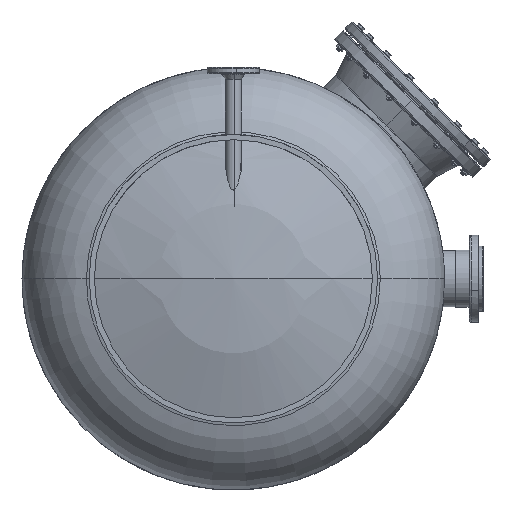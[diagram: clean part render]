
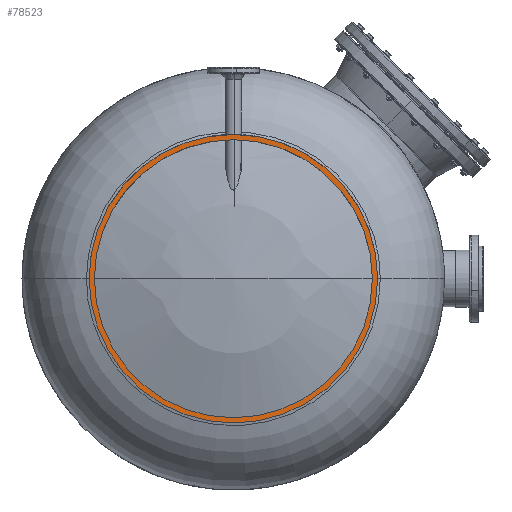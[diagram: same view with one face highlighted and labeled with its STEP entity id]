
A CAD part, front view. The second image highlights one B-rep face of the part: STEP entity #78523.
In plain terms, the highlighted planar face has unit normal (0, -1, 0).
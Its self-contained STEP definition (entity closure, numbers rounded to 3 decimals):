
#2797 = ORIENTED_EDGE ( 'NONE', *, *, #50582, .F. ) ;
#7586 = CARTESIAN_POINT ( 'NONE',  ( 415., 0., -415.041 ) ) ;
#9207 = CIRCLE ( 'NONE', #71311, 400. ) ;
#9631 = ORIENTED_EDGE ( 'NONE', *, *, #16983, .T. ) ;
#13338 = FACE_BOUND ( 'NONE', #48569, .T. ) ;
#14394 = DIRECTION ( 'NONE',  ( 1., 0., 0. ) ) ;
#16983 = EDGE_CURVE ( 'NONE', #76389, #76720, #87883, .T. ) ;
#19821 = EDGE_CURVE ( 'NONE', #95066, #96708, #24953, .T. ) ;
#20781 = CARTESIAN_POINT ( 'NONE',  ( 830., 0., -415.041 ) ) ;
#22199 = CIRCLE ( 'NONE', #35959, 415. ) ;
#24953 = CIRCLE ( 'NONE', #66335, 400. ) ;
#26643 = DIRECTION ( 'NONE',  ( 1., 0., 0. ) ) ;
#27869 = DIRECTION ( 'NONE',  ( 0., 1., 0. ) ) ;
#33725 = CARTESIAN_POINT ( 'NONE',  ( 15., 0., -415.041 ) ) ;
#34800 = DIRECTION ( 'NONE',  ( 0., 1., 0. ) ) ;
#35959 = AXIS2_PLACEMENT_3D ( 'NONE', #60862, #27869, #93253 ) ;
#36057 = FACE_OUTER_BOUND ( 'NONE', #98704, .T. ) ;
#40059 = DIRECTION ( 'NONE',  ( 0., -1., 0. ) ) ;
#40279 = AXIS2_PLACEMENT_3D ( 'NONE', #97062, #79262, #71694 ) ;
#40572 = DIRECTION ( 'NONE',  ( 1., 0., 0. ) ) ;
#48569 = EDGE_LOOP ( 'NONE', ( #88955, #76236 ) ) ;
#48925 = CARTESIAN_POINT ( 'NONE',  ( 415., 0., -415.041 ) ) ;
#50582 = EDGE_CURVE ( 'NONE', #76389, #76720, #22199, .T. ) ;
#60862 = CARTESIAN_POINT ( 'NONE',  ( 415., 0., -415.041 ) ) ;
#66335 = AXIS2_PLACEMENT_3D ( 'NONE', #48925, #88407, #14394 ) ;
#67743 = EDGE_CURVE ( 'NONE', #95066, #96708, #9207, .T. ) ;
#70903 = CARTESIAN_POINT ( 'NONE',  ( 0., 0., -415.041 ) ) ;
#71311 = AXIS2_PLACEMENT_3D ( 'NONE', #92533, #34800, #26643 ) ;
#71694 = DIRECTION ( 'NONE',  ( 1., 0., 0. ) ) ;
#76236 = ORIENTED_EDGE ( 'NONE', *, *, #67743, .T. ) ;
#76389 = VERTEX_POINT ( 'NONE', #20781 ) ;
#76575 = PLANE ( 'NONE',  #40279 ) ;
#76720 = VERTEX_POINT ( 'NONE', #70903 ) ;
#78523 = ADVANCED_FACE ( 'NONE', ( #36057, #13338 ), #76575, .F. ) ;
#79262 = DIRECTION ( 'NONE',  ( 0., 1., 0. ) ) ;
#80168 = CARTESIAN_POINT ( 'NONE',  ( 815., 0., -415.041 ) ) ;
#87883 = CIRCLE ( 'NONE', #98204, 415. ) ;
#88407 = DIRECTION ( 'NONE',  ( 0., -1., 0. ) ) ;
#88955 = ORIENTED_EDGE ( 'NONE', *, *, #19821, .F. ) ;
#92533 = CARTESIAN_POINT ( 'NONE',  ( 415., 0., -415.041 ) ) ;
#93253 = DIRECTION ( 'NONE',  ( 1., 0., 0. ) ) ;
#95066 = VERTEX_POINT ( 'NONE', #80168 ) ;
#96708 = VERTEX_POINT ( 'NONE', #33725 ) ;
#97062 = CARTESIAN_POINT ( 'NONE',  ( 415., 0., -415.041 ) ) ;
#98204 = AXIS2_PLACEMENT_3D ( 'NONE', #7586, #40059, #40572 ) ;
#98704 = EDGE_LOOP ( 'NONE', ( #2797, #9631 ) ) ;
